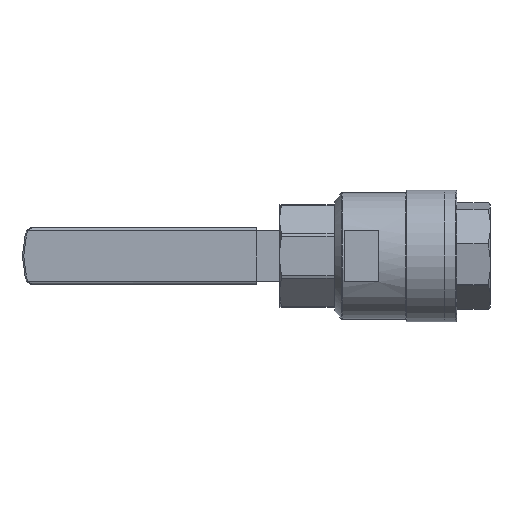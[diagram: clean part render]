
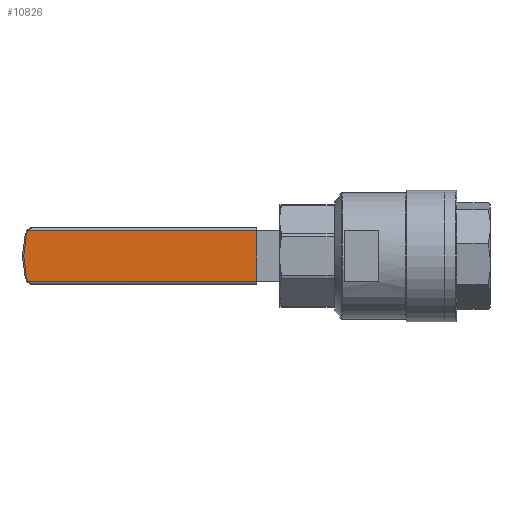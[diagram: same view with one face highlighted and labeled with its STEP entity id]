
A CAD part, front view. The second image highlights one B-rep face of the part: STEP entity #10826.
In plain terms, the highlighted planar face has unit normal (0, -1, 0).
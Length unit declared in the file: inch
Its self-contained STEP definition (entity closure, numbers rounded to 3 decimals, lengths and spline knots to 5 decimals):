
#74 = VERTEX_POINT ( 'NONE', #1826 ) ;
#185 = DIRECTION ( 'NONE',  ( -1., 0., 0. ) ) ;
#324 = AXIS2_PLACEMENT_3D ( 'NONE', #9470, #4279, #8621 ) ;
#411 = CARTESIAN_POINT ( 'NONE',  ( 5.34181, 1.17, -0.02544 ) ) ;
#668 = CARTESIAN_POINT ( 'NONE',  ( 5.15898, 1.17, 0.295 ) ) ;
#766 = ORIENTED_EDGE ( 'NONE', *, *, #1556, .T. ) ;
#967 = CARTESIAN_POINT ( 'NONE',  ( 5.26303, 1.17, -0.30909 ) ) ;
#1000 = CARTESIAN_POINT ( 'NONE',  ( 5.30907, 1.17, 0.00246 ) ) ;
#1009 = CARTESIAN_POINT ( 'NONE',  ( 5.34181, 1.17, 0.02544 ) ) ;
#1188 = DIRECTION ( 'NONE',  ( 0., 0., 1. ) ) ;
#1191 = VERTEX_POINT ( 'NONE', #967 ) ;
#1402 = VECTOR ( 'NONE', #5756, 39.37008 ) ;
#1447 = VECTOR ( 'NONE', #7745, 39.37008 ) ;
#1556 = EDGE_CURVE ( 'NONE', #1191, #6107, #6892, .T. ) ;
#1601 = CIRCLE ( 'NONE', #324, 0.00428 ) ;
#1629 = CARTESIAN_POINT ( 'NONE',  ( 5.30217, 1.17, -0.02007 ) ) ;
#1659 = CIRCLE ( 'NONE', #3121, 0.105 ) ;
#1826 = CARTESIAN_POINT ( 'NONE',  ( 5.30217, 1.17, 0.02007 ) ) ;
#2059 = DIRECTION ( 'NONE',  ( 0., 1., 0. ) ) ;
#2232 = DIRECTION ( 'NONE',  ( 0., 0., 1. ) ) ;
#2290 = VERTEX_POINT ( 'NONE', #2363 ) ;
#2363 = CARTESIAN_POINT ( 'NONE',  ( 5.30907, 1.17, -0.00246 ) ) ;
#2378 = VERTEX_POINT ( 'NONE', #11140 ) ;
#2809 = EDGE_CURVE ( 'NONE', #74, #6996, #6511, .T. ) ;
#2837 = ORIENTED_EDGE ( 'NONE', *, *, #2857, .T. ) ;
#2857 = EDGE_CURVE ( 'NONE', #10219, #4745, #9684, .T. ) ;
#2865 = CIRCLE ( 'NONE', #6150, 0.04 ) ;
#2881 = AXIS2_PLACEMENT_3D ( 'NONE', #668, #7518, #6772 ) ;
#3092 = DIRECTION ( 'NONE',  ( 0., -1., 0. ) ) ;
#3105 = CARTESIAN_POINT ( 'NONE',  ( 5.23246, 1.17, -0.37 ) ) ;
#3121 = AXIS2_PLACEMENT_3D ( 'NONE', #9341, #5693, #11110 ) ;
#3267 = EDGE_LOOP ( 'NONE', ( #8093, #10213, #766, #7108, #3367, #4419, #6885, #9359, #3971, #2837 ) ) ;
#3354 = DIRECTION ( 'NONE',  ( 0., 0., -1. ) ) ;
#3367 = ORIENTED_EDGE ( 'NONE', *, *, #6850, .T. ) ;
#3570 = DIRECTION ( 'NONE',  ( 0., -1., 0. ) ) ;
#3598 = VECTOR ( 'NONE', #3354, 39.37008 ) ;
#3750 = FACE_OUTER_BOUND ( 'NONE', #3267, .T. ) ;
#3800 = EDGE_CURVE ( 'NONE', #2378, #10219, #7997, .T. ) ;
#3971 = ORIENTED_EDGE ( 'NONE', *, *, #3800, .T. ) ;
#4266 = CARTESIAN_POINT ( 'NONE',  ( 5.35456, 1.17, 0.36667 ) ) ;
#4279 = DIRECTION ( 'NONE',  ( 0., -1., 0. ) ) ;
#4419 = ORIENTED_EDGE ( 'NONE', *, *, #2809, .F. ) ;
#4745 = VERTEX_POINT ( 'NONE', #6754 ) ;
#4873 = CIRCLE ( 'NONE', #2881, 0.105 ) ;
#4903 = CARTESIAN_POINT ( 'NONE',  ( 5.33, 1.17, -0.37 ) ) ;
#4915 = DIRECTION ( 'NONE',  ( -0.134, 0., 0.991 ) ) ;
#5293 = DIRECTION ( 'NONE',  ( 0., 0., 1. ) ) ;
#5466 = EDGE_CURVE ( 'NONE', #5968, #2378, #4873, .T. ) ;
#5693 = DIRECTION ( 'NONE',  ( 0., -1., 0. ) ) ;
#5756 = DIRECTION ( 'NONE',  ( -1., 0., 0. ) ) ;
#5900 = CARTESIAN_POINT ( 'NONE',  ( 5.26303, 1.17, 0.30909 ) ) ;
#5968 = VERTEX_POINT ( 'NONE', #5900 ) ;
#6107 = VERTEX_POINT ( 'NONE', #1629 ) ;
#6150 = AXIS2_PLACEMENT_3D ( 'NONE', #411, #3092, #2232 ) ;
#6236 = VERTEX_POINT ( 'NONE', #3105 ) ;
#6511 = CIRCLE ( 'NONE', #8523, 0.04 ) ;
#6568 = EDGE_CURVE ( 'NONE', #6236, #4745, #9135, .T. ) ;
#6583 = EDGE_CURVE ( 'NONE', #2290, #6107, #2865, .T. ) ;
#6754 = CARTESIAN_POINT ( 'NONE',  ( 1.88, 1.17, -0.37 ) ) ;
#6772 = DIRECTION ( 'NONE',  ( 0., 0., 1. ) ) ;
#6850 = EDGE_CURVE ( 'NONE', #2290, #6996, #1601, .T. ) ;
#6885 = ORIENTED_EDGE ( 'NONE', *, *, #8860, .T. ) ;
#6892 = LINE ( 'NONE', #4266, #1447 ) ;
#6996 = VERTEX_POINT ( 'NONE', #1000 ) ;
#7108 = ORIENTED_EDGE ( 'NONE', *, *, #6583, .F. ) ;
#7518 = DIRECTION ( 'NONE',  ( 0., -1., 0. ) ) ;
#7665 = AXIS2_PLACEMENT_3D ( 'NONE', #10656, #2059, #1188 ) ;
#7745 = DIRECTION ( 'NONE',  ( 0.134, 0., 0.991 ) ) ;
#7997 = LINE ( 'NONE', #9532, #10801 ) ;
#8093 = ORIENTED_EDGE ( 'NONE', *, *, #6568, .F. ) ;
#8523 = AXIS2_PLACEMENT_3D ( 'NONE', #1009, #3570, #5293 ) ;
#8611 = CARTESIAN_POINT ( 'NONE',  ( 1.88, 1.17, 0.37 ) ) ;
#8621 = DIRECTION ( 'NONE',  ( 0., 0., 1. ) ) ;
#8860 = EDGE_CURVE ( 'NONE', #74, #5968, #11077, .T. ) ;
#9135 = LINE ( 'NONE', #4903, #1402 ) ;
#9341 = CARTESIAN_POINT ( 'NONE',  ( 5.15898, 1.17, -0.295 ) ) ;
#9359 = ORIENTED_EDGE ( 'NONE', *, *, #5466, .T. ) ;
#9470 = CARTESIAN_POINT ( 'NONE',  ( 5.30557, 1.17, 0. ) ) ;
#9532 = CARTESIAN_POINT ( 'NONE',  ( 5.33, 1.17, 0.37 ) ) ;
#9684 = LINE ( 'NONE', #8611, #3598 ) ;
#9697 = EDGE_CURVE ( 'NONE', #6236, #1191, #1659, .T. ) ;
#9863 = PLANE ( 'NONE',  #7665 ) ;
#10121 = CARTESIAN_POINT ( 'NONE',  ( 1.88, 1.17, 0.37 ) ) ;
#10213 = ORIENTED_EDGE ( 'NONE', *, *, #9697, .T. ) ;
#10219 = VERTEX_POINT ( 'NONE', #10121 ) ;
#10335 = CARTESIAN_POINT ( 'NONE',  ( 5.25613, 1.17, 0.35999 ) ) ;
#10656 = CARTESIAN_POINT ( 'NONE',  ( 5.33, 1.17, 0.37 ) ) ;
#10801 = VECTOR ( 'NONE', #185, 39.37008 ) ;
#10826 = ADVANCED_FACE ( 'NONE', ( #3750 ), #9863, .F. ) ;
#10876 = VECTOR ( 'NONE', #4915, 39.37008 ) ;
#11077 = LINE ( 'NONE', #10335, #10876 ) ;
#11110 = DIRECTION ( 'NONE',  ( 0., 0., 1. ) ) ;
#11140 = CARTESIAN_POINT ( 'NONE',  ( 5.23246, 1.17, 0.37 ) ) ;
